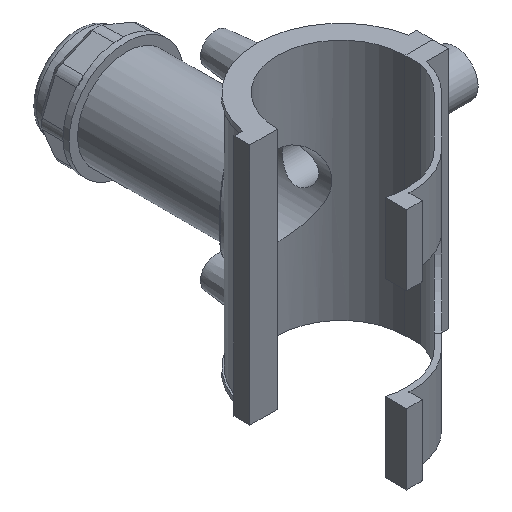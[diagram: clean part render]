
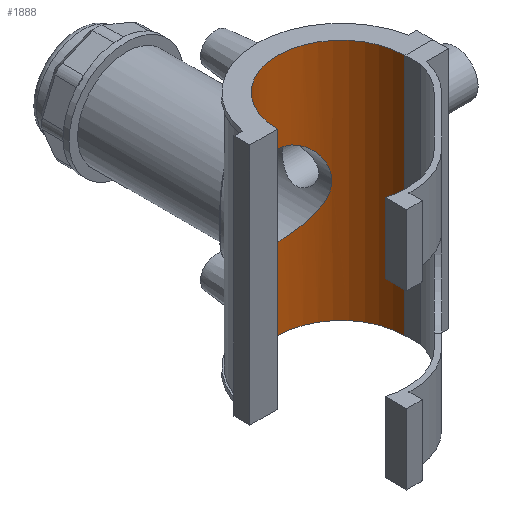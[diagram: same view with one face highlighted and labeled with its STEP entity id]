
A CAD part, isometric view. The second image highlights one B-rep face of the part: STEP entity #1888.
In plain terms, the highlighted cylindrical face has radius 31.05 mm (diameter 62.1 mm), a partial arc.
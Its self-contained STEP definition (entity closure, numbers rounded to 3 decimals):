
#50=FACE_BOUND('',#623,.T.);
#51=B_SPLINE_CURVE_WITH_KNOTS('',3,(#2711,#2712,#2713,#2714,#2715,#2716,
#2717,#2718,#2719,#2720,#2721,#2722,#2723,#2724,#2725,#2726,#2727,#2728,
#2729,#2730,#2731,#2732,#2733,#2734,#2735,#2736,#2737,#2738,#2739,#2740,
#2741,#2742,#2743,#2744,#2745,#2746,#2747,#2748,#2749,#2750,#2751,#2752,
#2753,#2754,#2755,#2756,#2757,#2758,#2759,#2760),.UNSPECIFIED.,.F.,.F.,
(4,2,2,2,2,2,2,2,2,2,2,2,2,2,2,2,2,2,2,2,2,2,2,2,4),(0.,0.383,
0.766,1.15,1.533,1.913,2.293,
2.673,3.053,3.433,3.813,4.193,
4.573,4.956,5.34,5.723,6.106,
6.489,6.872,7.256,7.639,8.019,
8.399,8.779,9.159),.UNSPECIFIED.);
#52=B_SPLINE_CURVE_WITH_KNOTS('',3,(#2761,#2762,#2763,#2764,#2765,#2766,
#2767,#2768,#2769,#2770,#2771,#2772,#2773,#2774,#2775,#2776,#2777,#2778),
 .UNSPECIFIED.,.F.,.F.,(4,2,2,2,2,2,2,2,4),(9.159,9.539,
9.919,10.299,10.679,11.063,11.446,
11.829,12.212),.UNSPECIFIED.);
#172=LINE('',#3639,#328);
#173=LINE('',#3643,#329);
#328=VECTOR('',#2543,10.);
#329=VECTOR('',#2546,10.);
#412=CYLINDRICAL_SURFACE('',#2095,31.05);
#501=FACE_OUTER_BOUND('',#622,.T.);
#622=EDGE_LOOP('',(#1595,#1596,#1597,#1598));
#623=EDGE_LOOP('',(#1599,#1600));
#719=CIRCLE('',#2092,31.05);
#720=CIRCLE('',#2094,31.05);
#739=VERTEX_POINT('',#2708);
#740=VERTEX_POINT('',#2710);
#867=VERTEX_POINT('',#3633);
#869=VERTEX_POINT('',#3637);
#870=VERTEX_POINT('',#3641);
#871=VERTEX_POINT('',#3642);
#921=EDGE_CURVE('',#740,#739,#51,.T.);
#922=EDGE_CURVE('',#739,#740,#52,.T.);
#1115=EDGE_CURVE('',#867,#869,#172,.T.);
#1116=EDGE_CURVE('',#870,#871,#173,.T.);
#1122=EDGE_CURVE('',#867,#871,#719,.T.);
#1123=EDGE_CURVE('',#870,#869,#720,.T.);
#1595=ORIENTED_EDGE('',*,*,#1116,.T.);
#1596=ORIENTED_EDGE('',*,*,#1122,.F.);
#1597=ORIENTED_EDGE('',*,*,#1115,.T.);
#1598=ORIENTED_EDGE('',*,*,#1123,.F.);
#1599=ORIENTED_EDGE('',*,*,#921,.T.);
#1600=ORIENTED_EDGE('',*,*,#922,.T.);
#1888=ADVANCED_FACE('',(#501,#50),#412,.F.);
#2092=AXIS2_PLACEMENT_3D('',#3652,#2554,#2555);
#2094=AXIS2_PLACEMENT_3D('',#3654,#2558,#2559);
#2095=AXIS2_PLACEMENT_3D('',#3657,#2562,#2563);
#2543=DIRECTION('',(0.,0.,-1.));
#2546=DIRECTION('',(0.,0.,1.));
#2554=DIRECTION('center_axis',(0.,0.,-1.));
#2555=DIRECTION('ref_axis',(-1.,0.,0.));
#2558=DIRECTION('center_axis',(0.,0.,1.));
#2559=DIRECTION('ref_axis',(-1.,0.,0.));
#2562=DIRECTION('center_axis',(0.,0.,1.));
#2563=DIRECTION('ref_axis',(-1.,0.,0.));
#2708=CARTESIAN_POINT('',(0.,31.05,-19.562));
#2710=CARTESIAN_POINT('',(-19.562,24.113,0.));
#2711=CARTESIAN_POINT('Ctrl Pts',(-19.562,24.113,0.));
#2712=CARTESIAN_POINT('Ctrl Pts',(-19.562,24.113,1.277));
#2713=CARTESIAN_POINT('Ctrl Pts',(-19.435,24.218,2.579));
#2714=CARTESIAN_POINT('Ctrl Pts',(-18.92,24.622,5.137));
#2715=CARTESIAN_POINT('Ctrl Pts',(-18.533,24.92,6.394));
#2716=CARTESIAN_POINT('Ctrl Pts',(-17.526,25.638,8.785));
#2717=CARTESIAN_POINT('Ctrl Pts',(-16.906,26.057,9.921));
#2718=CARTESIAN_POINT('Ctrl Pts',(-15.486,26.926,12.019));
#2719=CARTESIAN_POINT('Ctrl Pts',(-14.684,27.375,12.98));
#2720=CARTESIAN_POINT('Ctrl Pts',(-12.987,28.219,14.677));
#2721=CARTESIAN_POINT('Ctrl Pts',(-12.03,28.647,15.477));
#2722=CARTESIAN_POINT('Ctrl Pts',(-9.931,29.44,16.901));
#2723=CARTESIAN_POINT('Ctrl Pts',(-8.79,29.806,17.524));
#2724=CARTESIAN_POINT('Ctrl Pts',(-6.389,30.411,18.535));
#2725=CARTESIAN_POINT('Ctrl Pts',(-5.127,30.651,18.923));
#2726=CARTESIAN_POINT('Ctrl Pts',(-2.566,30.971,19.436));
#2727=CARTESIAN_POINT('Ctrl Pts',(-1.267,31.05,19.562));
#2728=CARTESIAN_POINT('Ctrl Pts',(1.267,31.05,19.562));
#2729=CARTESIAN_POINT('Ctrl Pts',(2.566,30.971,19.436));
#2730=CARTESIAN_POINT('Ctrl Pts',(5.127,30.651,18.923));
#2731=CARTESIAN_POINT('Ctrl Pts',(6.389,30.411,18.535));
#2732=CARTESIAN_POINT('Ctrl Pts',(8.79,29.806,17.524));
#2733=CARTESIAN_POINT('Ctrl Pts',(9.931,29.44,16.901));
#2734=CARTESIAN_POINT('Ctrl Pts',(12.03,28.647,15.477));
#2735=CARTESIAN_POINT('Ctrl Pts',(12.987,28.219,14.677));
#2736=CARTESIAN_POINT('Ctrl Pts',(14.684,27.375,12.98));
#2737=CARTESIAN_POINT('Ctrl Pts',(15.486,26.926,12.019));
#2738=CARTESIAN_POINT('Ctrl Pts',(16.906,26.057,9.921));
#2739=CARTESIAN_POINT('Ctrl Pts',(17.526,25.638,8.785));
#2740=CARTESIAN_POINT('Ctrl Pts',(18.533,24.92,6.394));
#2741=CARTESIAN_POINT('Ctrl Pts',(18.92,24.622,5.137));
#2742=CARTESIAN_POINT('Ctrl Pts',(19.435,24.218,2.579));
#2743=CARTESIAN_POINT('Ctrl Pts',(19.562,24.113,1.277));
#2744=CARTESIAN_POINT('Ctrl Pts',(19.562,24.113,-1.277));
#2745=CARTESIAN_POINT('Ctrl Pts',(19.435,24.218,-2.579));
#2746=CARTESIAN_POINT('Ctrl Pts',(18.92,24.622,-5.137));
#2747=CARTESIAN_POINT('Ctrl Pts',(18.533,24.92,-6.394));
#2748=CARTESIAN_POINT('Ctrl Pts',(17.526,25.638,-8.785));
#2749=CARTESIAN_POINT('Ctrl Pts',(16.906,26.057,-9.921));
#2750=CARTESIAN_POINT('Ctrl Pts',(15.486,26.926,-12.019));
#2751=CARTESIAN_POINT('Ctrl Pts',(14.684,27.375,-12.98));
#2752=CARTESIAN_POINT('Ctrl Pts',(12.987,28.219,-14.677));
#2753=CARTESIAN_POINT('Ctrl Pts',(12.03,28.647,-15.477));
#2754=CARTESIAN_POINT('Ctrl Pts',(9.931,29.44,-16.901));
#2755=CARTESIAN_POINT('Ctrl Pts',(8.79,29.806,-17.524));
#2756=CARTESIAN_POINT('Ctrl Pts',(6.389,30.411,-18.535));
#2757=CARTESIAN_POINT('Ctrl Pts',(5.127,30.651,-18.923));
#2758=CARTESIAN_POINT('Ctrl Pts',(2.566,30.971,-19.436));
#2759=CARTESIAN_POINT('Ctrl Pts',(1.267,31.05,-19.562));
#2760=CARTESIAN_POINT('Ctrl Pts',(0.,31.05,-19.562));
#2761=CARTESIAN_POINT('Ctrl Pts',(0.,31.05,-19.562));
#2762=CARTESIAN_POINT('Ctrl Pts',(-1.267,31.05,-19.562));
#2763=CARTESIAN_POINT('Ctrl Pts',(-2.566,30.971,-19.436));
#2764=CARTESIAN_POINT('Ctrl Pts',(-5.127,30.651,-18.923));
#2765=CARTESIAN_POINT('Ctrl Pts',(-6.389,30.411,-18.535));
#2766=CARTESIAN_POINT('Ctrl Pts',(-8.79,29.806,-17.524));
#2767=CARTESIAN_POINT('Ctrl Pts',(-9.931,29.44,-16.901));
#2768=CARTESIAN_POINT('Ctrl Pts',(-12.03,28.647,-15.477));
#2769=CARTESIAN_POINT('Ctrl Pts',(-12.987,28.219,-14.677));
#2770=CARTESIAN_POINT('Ctrl Pts',(-14.684,27.375,-12.98));
#2771=CARTESIAN_POINT('Ctrl Pts',(-15.486,26.926,-12.019));
#2772=CARTESIAN_POINT('Ctrl Pts',(-16.906,26.057,-9.921));
#2773=CARTESIAN_POINT('Ctrl Pts',(-17.526,25.638,-8.785));
#2774=CARTESIAN_POINT('Ctrl Pts',(-18.533,24.92,-6.394));
#2775=CARTESIAN_POINT('Ctrl Pts',(-18.92,24.622,-5.137));
#2776=CARTESIAN_POINT('Ctrl Pts',(-19.435,24.218,-2.579));
#2777=CARTESIAN_POINT('Ctrl Pts',(-19.562,24.113,-1.277));
#2778=CARTESIAN_POINT('Ctrl Pts',(-19.562,24.113,0.));
#3633=CARTESIAN_POINT('',(-31.05,0.05,59.055));
#3637=CARTESIAN_POINT('',(-31.05,0.05,-59.055));
#3639=CARTESIAN_POINT('',(-31.05,0.05,0.));
#3641=CARTESIAN_POINT('',(31.05,0.05,-59.055));
#3642=CARTESIAN_POINT('',(31.05,0.05,59.055));
#3643=CARTESIAN_POINT('',(31.05,0.05,0.));
#3652=CARTESIAN_POINT('Origin',(0.,0.,59.055));
#3654=CARTESIAN_POINT('Origin',(0.,0.,-59.055));
#3657=CARTESIAN_POINT('Origin',(0.,0.,0.));
